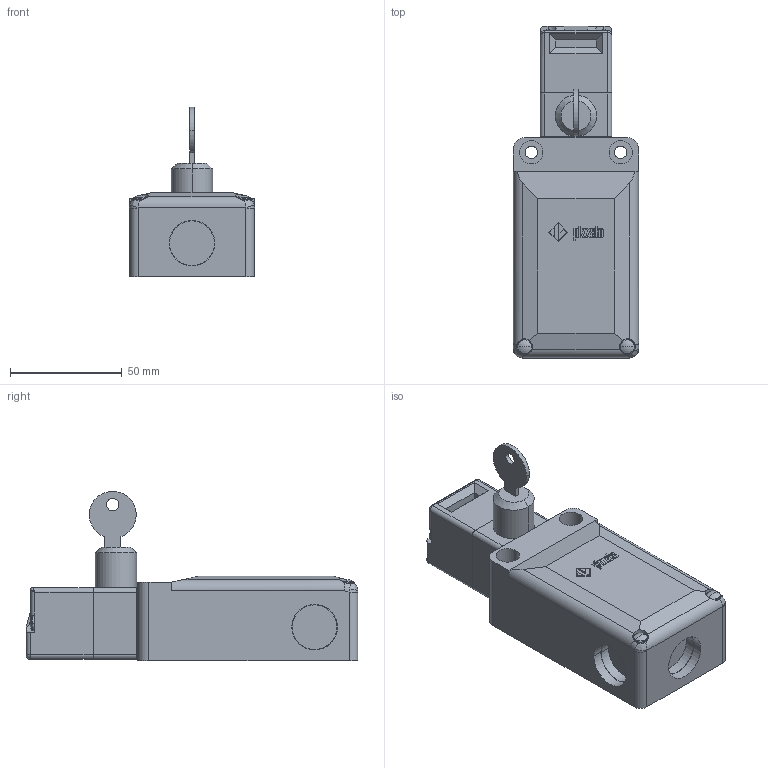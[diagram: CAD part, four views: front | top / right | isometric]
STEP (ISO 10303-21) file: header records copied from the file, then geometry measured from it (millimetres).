
FILE_DESCRIPTION (( 'STEP AP203' ), '1' );
FILE_NAME ('ZF_STEP_FS_xx98Dxxx_A08.STEP', '2009-02-11T08:33:31', ( 'mario' ), ( '' ), 'SwSTEP 2.0', 'SolidWorks 2009', '' );
FILE_SCHEMA (( 'CONFIG_CONTROL_DESIGN' ));
Length unit declared in the file: millimetre
Products named in the file (5): Pizzato_Custodia_FS_Versione_NE; Pizzato_Chiave_Serratura_Chiave; Pizzato_Modulo_TS98; Pizzato_Supporto_T93_T96_TS96; ZF_STEP_FS_xx98Dxxx_A08
Assembly tree (4 placements, depth 2):
  ZF_STEP_FS_xx98Dxxx_A08
    Pizzato_Chiave_Serratura_Chiave
    Pizzato_Modulo_TS98
    Pizzato_Custodia_FS_Versione_NE
    Pizzato_Supporto_T93_T96_TS96
Bounding box: 56 x 148.5 x 75.79 mm (x, y, z)
Volume: 241704.6 mm3; surface area: 40059 mm2
Topology: 4 solids, 4 shells, 493 faces, 1270 edges, 829 vertices
Faces by surface type: plane 300, cylinder 98, bspline 75, sphere 10, torus 8, cone 2
Entity records: 18956 total; most frequent: CARTESIAN_POINT 6832, ORIENTED_EDGE 2532, DIRECTION 2151, EDGE_CURVE 1266, VECTOR 879, LINE 879, VERTEX_POINT 829, AXIS2_PLACEMENT_3D 636
